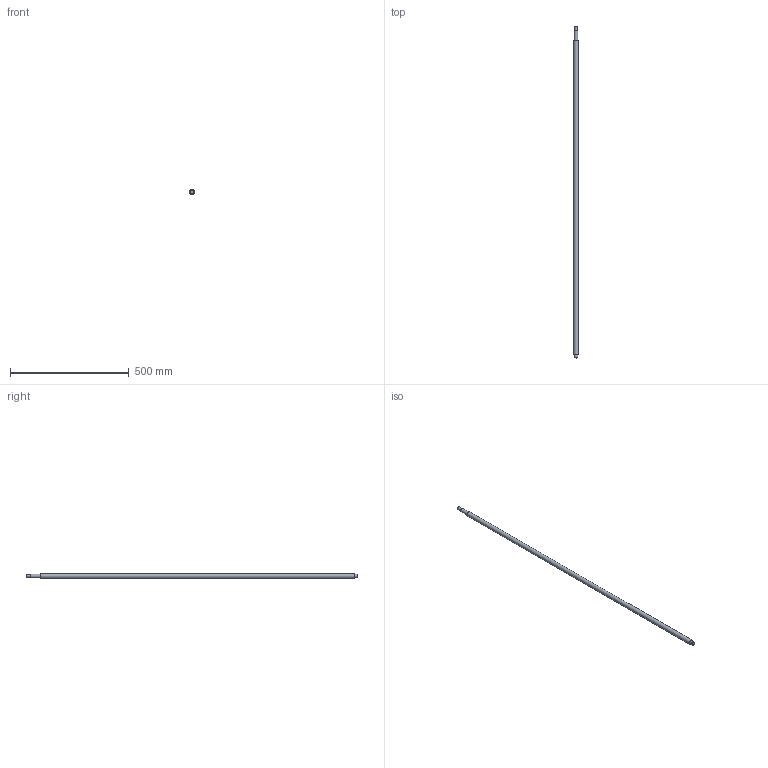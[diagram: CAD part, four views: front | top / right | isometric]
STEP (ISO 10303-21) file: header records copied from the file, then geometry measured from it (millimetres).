
FILE_DESCRIPTION(/* description */ (''),/* implementation_level */ '2;1');
FILE_NAME(/* name */ 'C:\Users\David\Desktop\stepFiles\Profilfuehrung\KUS2010x1400.stp',/* time_stamp */ '2018-06-24T15:12:51+02:00',/* author */ ('David'),/* organization */ (''),/* preprocessor_version */ 'ST-DEVELOPER v17',/* originating_system */ 'Autodesk Inventor 2019',/* authorisation */ '');
FILE_SCHEMA (('AUTOMOTIVE_DESIGN { 1 0 10303 214 3 1 1 }'));
Length unit declared in the file: millimetre
Products named in the file (1): SFU2005xvaiabel
Bounding box: 20 x 1400 x 20 mm (x, y, z)
Volume: 428488.3 mm3; surface area: 87261.9 mm2
Topology: 1 solids, 1 shells, 15 faces, 34 edges, 26 vertices
Faces by surface type: plane 7, cylinder 6, cone 2
Full cylindrical faces by diameter (mm): 12 x1, 14.3 x1, 15 x3, 20 x1
Entity records: 493 total; most frequent: DIRECTION 92, CARTESIAN_POINT 76, ORIENTED_EDGE 68, AXIS2_PLACEMENT_3D 42, EDGE_CURVE 34, CIRCLE 26, VERTEX_POINT 26, EDGE_LOOP 20
